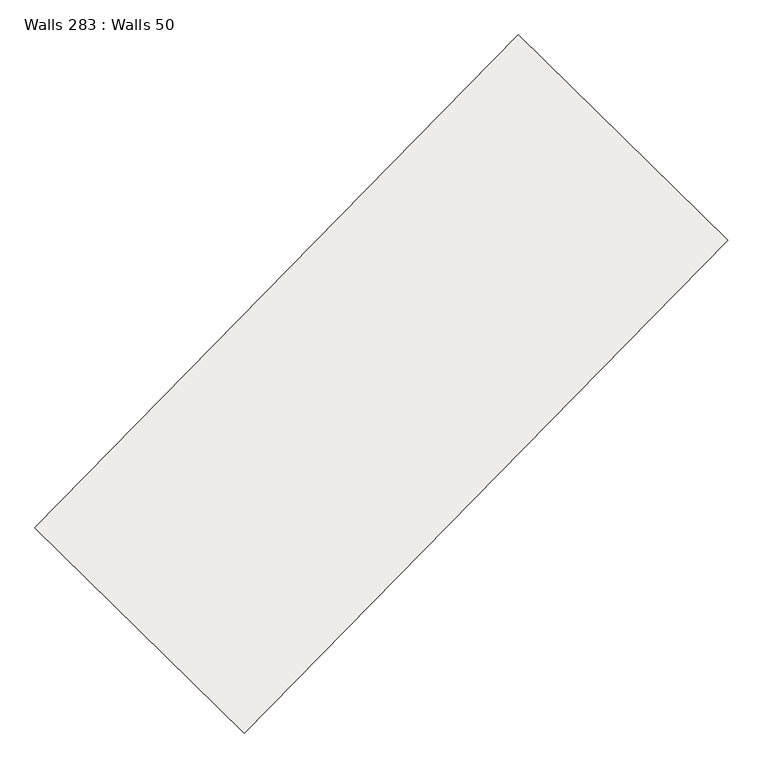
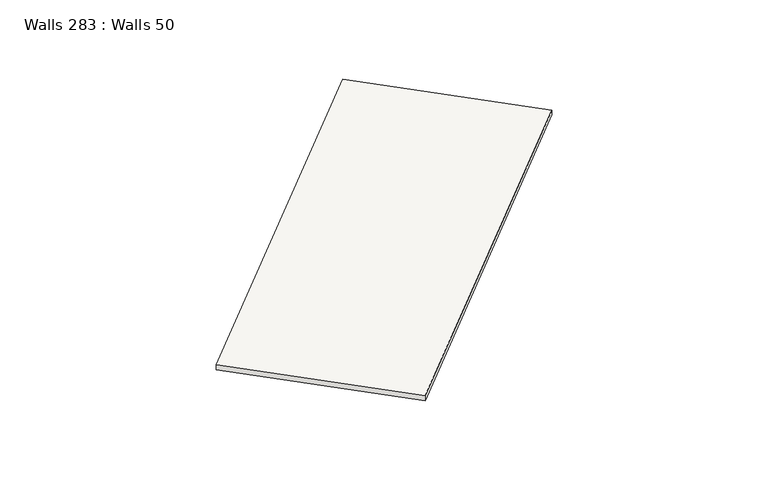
"""IFC4 building model written with IfcOpenShell, lengths in millimetres: slab geometry, Walls 283 : Walls 50."""

from ifc_helpers import new_model, si_unit, frame, origin, place, context, project, spatial, polyline, outline, extrude, source, transform, mapped, element, save


def walls_283_walls_50_2c49ba24(model_context):
    return source(origin(), model_context, "Body", "SweptSolid", [
        extrude(outline(polyline([(-50.0, 0.0), (50.0, 0.0), (-30.0, -8699.9999996), (-130.0, -8699.9999996), (-50.0, 0.0)])), frame((-79167.0903521, -240017.7095401, 636890.0), z_axis=(-0.7137361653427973, 0.7004146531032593, 0.0), x_axis=(0.0, 0.0, 1.0)), (0.0, 0.0, 1.0), 3699.999995),
    ])


if __name__ == "__main__":
    model = new_model("IFC4")
    model_context = context("Model", 3, world=origin())
    ifc_project = project(units=[si_unit("LENGTHUNIT", "METRE", prefix="MILLI")], contexts=[model_context])
    site = spatial("IfcSite", under=ifc_project)
    building = spatial("IfcBuilding", under=site)
    placement = place(None, origin())
    walls_283_walls_50_shape = walls_283_walls_50_2c49ba24(model_context)
    element("IfcSlab", 1, ObjectType="Walls 283 : Walls 50", at=placement, inside=building, context=model_context, shape_type="MappedRepresentation", body=[
        mapped(walls_283_walls_50_shape, transform((0.0, 0.0, 0.0), x_axis=(1.0, 0.0, 0.0), y_axis=(0.0, 1.0, 0.0), z_axis=(0.0, 0.0, 1.0))),
    ])
    save(model, "model.ifc")
